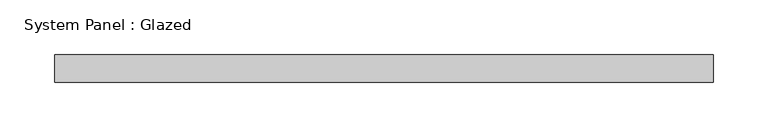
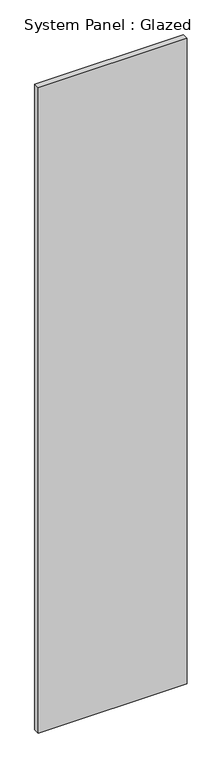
"""IFC4 building model written with IfcOpenShell, lengths in millimetres: plate geometry, System Panel : Glazed."""

import ifcopenshell
import ifcopenshell.guid

model = None  # the IFC model being written
_history = None  # IfcOwnerHistory: only IFC2X3 demands one
_inside = {}  # id of a spatial element -> (the spatial element, [elements in it])
_under = {}  # id of a project, library or spatial element -> (it, [spatial elements below it])
_declared = {}  # id of a project -> (the project, [libraries it declares])
_typed = {}  # id of a type object -> (the type object, [elements of that type])
_made_of = {}  # id of a material, layer set ... -> (it, [elements and type objects made of it])


def new_model(schema):
    """Start an empty IFC model of exactly this schema.

    Asked for "IFC4X3", IfcOpenShell would pick the latest addendum, in which some entities
    have other attributes; the version numbers below select the first issue.
    IFC2X3 requires an IfcOwnerHistory on every rooted entity: one is made here for all.
    """
    global model, _history
    if schema == "IFC4X3":
        model = ifcopenshell.file(schema_version=(4, 3, 0, 0))
    else:
        model = ifcopenshell.file(schema=schema)
    _inside.clear()
    _under.clear()
    _declared.clear()
    _typed.clear()
    _made_of.clear()
    _history = None
    if model.schema == "IFC2X3":
        org = make("IfcOrganization", Name="unknown")
        user = make(
            "IfcPersonAndOrganization",
            ThePerson=make("IfcPerson", FamilyName="unknown"),
            TheOrganization=org,
        )
        app = make(
            "IfcApplication",
            ApplicationDeveloper=org,
            Version="unknown",
            ApplicationFullName="unknown",
            ApplicationIdentifier="unknown",
        )
        _history = make(
            "IfcOwnerHistory",
            OwningUser=user,
            OwningApplication=app,
            ChangeAction="ADDED",
            CreationDate=0,
        )
    return model


def make(cls, **values):
    """One entity of the class cls with the attributes given. An attribute that is None is left unset."""
    return model.create_entity(
        cls, **{name: value for name, value in values.items() if value is not None}
    )


def rooted(cls, **values):
    """An entity with a GlobalId (a new one), such as an element, a storey or a relation."""
    return make(cls, GlobalId=ifcopenshell.guid.new(), OwnerHistory=_history, **values)


def si_unit(unit_type, name, prefix=None):
    """IfcSIUnit, for example si_unit("LENGTHUNIT", "METRE", prefix="MILLI")."""
    return make("IfcSIUnit", UnitType=unit_type, Prefix=prefix, Name=name)


def assignment(units):
    """IfcUnitAssignment: the units of a project."""
    return None if units is None else make("IfcUnitAssignment", Units=units)


def point(xyz):
    """IfcCartesianPoint."""
    return None if xyz is None else make("IfcCartesianPoint", Coordinates=xyz)


def direction(xyz):
    """IfcDirection."""
    return None if xyz is None else make("IfcDirection", DirectionRatios=xyz)


def frame(location, z_axis=None, x_axis=None):
    """IfcAxis2Placement3D, a coordinate frame: its origin and axes. An axis left out is left unset."""
    return make(
        "IfcAxis2Placement3D",
        Location=point(location),
        Axis=direction(z_axis),
        RefDirection=direction(x_axis),
    )


def origin():
    """The frame at (0, 0, 0) with its axes left unset."""
    return frame((0.0, 0.0, 0.0))


def origin_with_axes():
    """The frame at (0, 0, 0) with the z axis (0, 0, 1) and the x axis (1, 0, 0) written out."""
    return frame((0.0, 0.0, 0.0), z_axis=(0.0, 0.0, 1.0), x_axis=(1.0, 0.0, 0.0))


def place(relative_to, where):
    """IfcLocalPlacement: puts the frame where relative to a parent placement (None: the world)."""
    return make(
        "IfcLocalPlacement", PlacementRelTo=relative_to, RelativePlacement=where
    )


def context(
    kind, dimensions, precision=None, world=None, true_north=None, identifier=None
):
    """IfcGeometricRepresentationContext, for example the 3D "Model" context."""
    return make(
        "IfcGeometricRepresentationContext",
        ContextIdentifier=identifier,
        ContextType=kind,
        CoordinateSpaceDimension=dimensions,
        Precision=precision,
        WorldCoordinateSystem=world,
        TrueNorth=true_north,
    )


def project(units=None, contexts=None):
    """IfcProject with its units and contexts."""
    return rooted(
        "IfcProject",
        Name="project",
        RepresentationContexts=contexts,
        UnitsInContext=assignment(units),
    )


def spatial(cls, under=None, at=None, **own):
    """A site, building, storey or space (cls), placed at a placement, below another one or the project."""
    s = rooted(cls, ObjectPlacement=at, **own)
    if under is not None:
        _under.setdefault(under.id(), (under, []))[1].append(s)
    return s


def polyline(points):
    """IfcPolyline through the points."""
    return make("IfcPolyline", Points=[point(p) for p in points])


def outline(outer, holes=None, kind="AREA"):
    """IfcArbitraryClosedProfileDef: a profile drawn as a closed curve; with holes, ...WithVoids."""
    if holes is None:
        return make("IfcArbitraryClosedProfileDef", ProfileType=kind, OuterCurve=outer)
    return make(
        "IfcArbitraryProfileDefWithVoids",
        ProfileType=kind,
        OuterCurve=outer,
        InnerCurves=holes,
    )


def extrude(swept, where, along, depth):
    """IfcExtrudedAreaSolid: the profile swept, set in the frame where, extruded along a direction by depth."""
    return make(
        "IfcExtrudedAreaSolid",
        SweptArea=swept,
        Position=where,
        ExtrudedDirection=direction(along),
        Depth=depth,
    )


def shape(context_of_items, identifier, shape_type, items):
    """IfcShapeRepresentation: the items that make up one representation, for example the "Body"."""
    return make(
        "IfcShapeRepresentation",
        ContextOfItems=context_of_items,
        RepresentationIdentifier=identifier,
        RepresentationType=shape_type,
        Items=items,
    )


def source(mapping_origin, context_of_items, identifier, shape_type, items):
    """IfcRepresentationMap: a shape defined once, which mapped items show again and again."""
    return make(
        "IfcRepresentationMap",
        MappingOrigin=mapping_origin,
        MappedRepresentation=shape(context_of_items, identifier, shape_type, items),
    )


def transform(
    local_origin,
    x_axis=None,
    y_axis=None,
    z_axis=None,
    scale=None,
    scale2=None,
    scale3=None,
    uniform=True,
):
    """IfcCartesianTransformationOperator3D, or its non-uniform kind. x_axis, y_axis, z_axis: its Axis1, 2, 3."""
    if uniform:
        return make(
            "IfcCartesianTransformationOperator3D",
            Axis1=direction(x_axis),
            Axis2=direction(y_axis),
            LocalOrigin=point(local_origin),
            Scale=scale,
            Axis3=direction(z_axis),
        )
    return make(
        "IfcCartesianTransformationOperator3DnonUniform",
        Axis1=direction(x_axis),
        Axis2=direction(y_axis),
        LocalOrigin=point(local_origin),
        Scale=scale,
        Axis3=direction(z_axis),
        Scale2=scale2,
        Scale3=scale3,
    )


def mapped(mapping_source, mapping_target):
    """IfcMappedItem: shows the shape of a source again, moved by a transform."""
    return make(
        "IfcMappedItem", MappingSource=mapping_source, MappingTarget=mapping_target
    )


def made_of(thing, what):
    """Note that an element or type object is made of a material, layer set ...; save() writes the relation."""
    if what is not None:
        _made_of.setdefault(what.id(), (what, []))[1].append(thing)
    return thing


def element(
    cls,
    number,
    at=None,
    inside=None,
    cuts=None,
    type_object=None,
    material=None,
    context=None,
    identifier="Body",
    shape_type=None,
    held_by="IfcProductDefinitionShape",
    body=None,
    shapes=None,
    **own,
):
    """One element of the class cls, such as IfcWall. Its Tag is "e" and its number.

    at: its placement. inside: the storey or other place that contains it. cuts: it is an
    opening in that element (IfcRelVoidsElement). A single representation is given by context,
    identifier, shape_type and body (its items); several are given by shapes. held_by: the class
    of the entity that holds the representations. save() writes the other relations.
    """
    e = rooted(cls, Tag="e%d" % number, ObjectPlacement=at, **own)
    if body is not None:
        shapes = [shape(context, identifier, shape_type, body)]
    if shapes is not None:
        e.Representation = make(held_by, Representations=shapes)
    if inside is not None:
        _inside.setdefault(inside.id(), (inside, []))[1].append(e)
    if cuts is not None:
        rooted(
            "IfcRelVoidsElement", RelatingBuildingElement=cuts, RelatedOpeningElement=e
        )
    if type_object is not None:
        _typed.setdefault(type_object.id(), (type_object, []))[1].append(e)
    return made_of(e, material)


def aggregate(whole, parts):
    """IfcRelAggregates: a whole, such as a stair, and the parts it consists of."""
    return rooted("IfcRelAggregates", RelatingObject=whole, RelatedObjects=parts)


def save(model, path):
    """Write the relations noted so far, then the file.

    IfcRelAggregates (storeys below a building ...), IfcRelContainedInSpatialStructure (elements
    in a storey), IfcRelDefinesByType, IfcRelAssociatesMaterial and IfcRelDeclares: one each for
    every whole, place, type object, material and project.
    """
    for whole, parts in _under.values():
        aggregate(whole, parts)
    for where, things in _inside.values():
        rooted(
            "IfcRelContainedInSpatialStructure",
            RelatedElements=things,
            RelatingStructure=where,
        )
    for kind, things in _typed.values():
        rooted("IfcRelDefinesByType", RelatedObjects=things, RelatingType=kind)
    for what, things in _made_of.values():
        rooted("IfcRelAssociatesMaterial", RelatedObjects=things, RelatingMaterial=what)
    for by, libraries in _declared.values():
        rooted("IfcRelDeclares", RelatingContext=by, RelatedDefinitions=libraries)
    model.write(path)


def system_panel_glazed_e5239730(model_context):
    return source(origin(), model_context, "Body", "SweptSolid", [
        extrude(outline(polyline([(300.0, 24.5), (-300.0, 24.5), (-300.0, 49.5), (300.0, 49.5), (300.0, 24.5)])), origin_with_axes(), (0.0, 0.0, 1.0), 2750.0),
    ])


if __name__ == "__main__":
    model = new_model("IFC4")
    model_context = context("Model", 3, world=origin())
    ifc_project = project(units=[si_unit("LENGTHUNIT", "METRE", prefix="MILLI")], contexts=[model_context])
    site = spatial("IfcSite", under=ifc_project)
    building = spatial("IfcBuilding", under=site)
    placement = place(None, origin())
    system_panel_glazed_shape = system_panel_glazed_e5239730(model_context)
    element("IfcPlate", 1, ObjectType="System Panel : Glazed", at=placement, inside=building, context=model_context, shape_type="MappedRepresentation", body=[
        mapped(system_panel_glazed_shape, transform((0.0, 0.0, 0.0), x_axis=(1.0, 0.0, 0.0), y_axis=(0.0, 1.0, 0.0), z_axis=(0.0, 0.0, 1.0))),
    ])
    save(model, "model.ifc")
